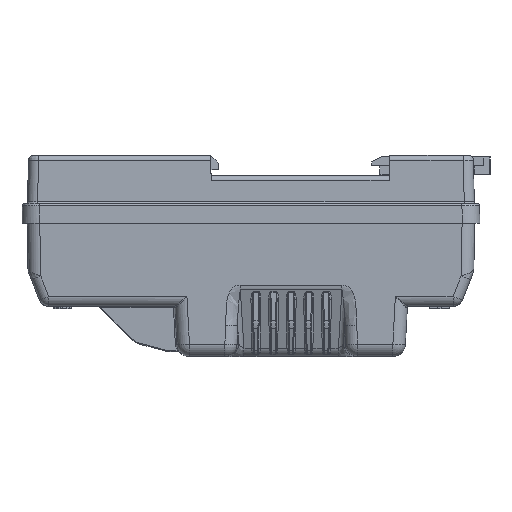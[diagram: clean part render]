
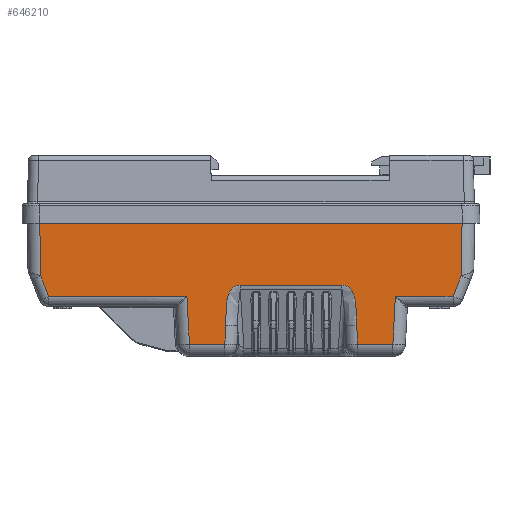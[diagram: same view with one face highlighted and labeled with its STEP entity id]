
A CAD part, left-side view. The second image highlights one B-rep face of the part: STEP entity #646210.
In plain terms, the highlighted planar face has unit normal (-1, 0, -0.018).
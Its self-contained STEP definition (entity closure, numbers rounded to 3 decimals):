
#92290=CARTESIAN_POINT('',(-12.177,-14.214,
16.937));
#92300=VERTEX_POINT('',#92290);
#92330=CARTESIAN_POINT('',(-11.916,-13.952,
1.956));
#92340=DIRECTION('',(-0.017,-0.017,
1.));
#92350=VECTOR('',#92340,1.);
#92360=LINE('',#92330,#92350);
#92370=CARTESIAN_POINT('',(-12.36,-14.396,
27.4));
#92380=VERTEX_POINT('',#92370);
#92390=EDGE_CURVE('',#92300,#92380,#92360,.T.);
#142220=CARTESIAN_POINT('',(-12.177,69.408,
16.937));
#142230=VERTEX_POINT('',#142220);
#142260=CARTESIAN_POINT('',(-11.881,62.722,
-0.035));
#142270=DIRECTION('',(-0.016,0.366,
0.93));
#142280=VECTOR('',#142270,1.);
#142290=LINE('',#142260,#142280);
#142300=CARTESIAN_POINT('',(-12.106,67.804,
12.865));
#142310=VERTEX_POINT('',#142300);
#142320=EDGE_CURVE('',#142310,#142230,#142290,.T.);
#489590=CARTESIAN_POINT('',(-12.36,69.59,
27.4));
#489600=VERTEX_POINT('',#489590);
#489630=CARTESIAN_POINT('',(-11.881,69.111,
-0.044));
#489640=DIRECTION('',(0.017,-0.017,
-1.));
#489650=VECTOR('',#489640,1.);
#489660=LINE('',#489630,#489650);
#489670=EDGE_CURVE('',#489600,#142230,#489660,.T.);
#592020=CARTESIAN_POINT('',(-12.106,-12.61,
12.865));
#592030=VERTEX_POINT('',#592020);
#592060=CARTESIAN_POINT('',(-11.881,-7.528,
-0.035));
#592070=DIRECTION('',(0.016,0.366,
-0.93));
#592080=VECTOR('',#592070,1.);
#592090=LINE('',#592060,#592080);
#592100=EDGE_CURVE('',#92300,#592030,#592090,.T.);
#594220=CARTESIAN_POINT('',(-12.106,-1.129,
12.865));
#594230=VERTEX_POINT('',#594220);
#594520=CARTESIAN_POINT('',(-12.106,0.,
12.865));
#594530=DIRECTION('',(0.,-1.,0.));
#594540=VECTOR('',#594530,1.);
#594550=LINE('',#594520,#594540);
#594560=EDGE_CURVE('',#594230,#592030,#594550,.T.);
#645170=CARTESIAN_POINT('',(-12.367,0.,
27.8));
#645180=DIRECTION('',(1.,0.,
0.017));
#645190=DIRECTION('',(0.,-1.,0.));
#645200=AXIS2_PLACEMENT_3D('',#645170,#645180,#645190);
#645210=PLANE('',#645200);
#645220=CARTESIAN_POINT('',(-11.94,0.,
3.356));
#645230=DIRECTION('',(0.,1.,0.));
#645240=VECTOR('',#645230,1.);
#645250=LINE('',#645220,#645240);
#645260=CARTESIAN_POINT('',(-11.94,32.776,
3.356));
#645270=VERTEX_POINT('',#645260);
#645280=CARTESIAN_POINT('',(-11.94,39.824,
3.356));
#645290=VERTEX_POINT('',#645280);
#645300=EDGE_CURVE('',#645270,#645290,#645250,.T.);
#645310=ORIENTED_EDGE('',*,*,#645300,.F.);
#645320=CARTESIAN_POINT('',(-11.846,39.541,
-2.044));
#645330=DIRECTION('',(0.017,-0.052,
-0.998));
#645340=VECTOR('',#645330,1.);
#645350=LINE('',#645320,#645340);
#645360=CARTESIAN_POINT('',(-12.106,40.323,
12.865));
#645370=VERTEX_POINT('',#645360);
#645380=EDGE_CURVE('',#645370,#645290,#645350,.T.);
#645390=ORIENTED_EDGE('',*,*,#645380,.T.);
#645400=CARTESIAN_POINT('',(-12.106,0.,
12.865));
#645410=DIRECTION('',(0.,1.,0.));
#645420=VECTOR('',#645410,1.);
#645430=LINE('',#645400,#645420);
#645440=EDGE_CURVE('',#645370,#142310,#645430,.T.);
#645450=ORIENTED_EDGE('',*,*,#645440,.F.);
#645460=ORIENTED_EDGE('',*,*,#142320,.F.);
#645470=ORIENTED_EDGE('',*,*,#489670,.T.);
#645480=CARTESIAN_POINT('',(-12.36,0.,27.4));
#645490=DIRECTION('',(0.,1.,0.));
#645500=VECTOR('',#645490,1.);
#645510=LINE('',#645480,#645500);
#645520=EDGE_CURVE('',#92380,#489600,#645510,.T.);
#645530=ORIENTED_EDGE('',*,*,#645520,.T.);
#645540=ORIENTED_EDGE('',*,*,#92390,.T.);
#645550=ORIENTED_EDGE('',*,*,#592100,.F.);
#645560=ORIENTED_EDGE('',*,*,#594560,.T.);
#645570=CARTESIAN_POINT('',(-11.881,-0.452,
-0.044));
#645580=DIRECTION('',(-0.017,-0.052,
0.998));
#645590=VECTOR('',#645580,1.);
#645600=LINE('',#645570,#645590);
#645610=CARTESIAN_POINT('',(-11.94,-0.63,
3.356));
#645620=VERTEX_POINT('',#645610);
#645630=EDGE_CURVE('',#645620,#594230,#645600,.T.);
#645640=ORIENTED_EDGE('',*,*,#645630,.T.);
#645650=CARTESIAN_POINT('',(-11.94,5.639,
3.356));
#645660=DIRECTION('',(0.,1.,0.));
#645670=VECTOR('',#645660,1.);
#645680=LINE('',#645650,#645670);
#645690=CARTESIAN_POINT('',(-11.94,6.418,
3.356));
#645700=VERTEX_POINT('',#645690);
#645710=EDGE_CURVE('',#645620,#645700,#645680,.T.);
#645720=ORIENTED_EDGE('',*,*,#645710,.F.);
#645730=CARTESIAN_POINT('',(-11.881,6.311,
-0.044));
#645740=DIRECTION('',(0.017,-0.031,
-0.999));
#645750=VECTOR('',#645740,1.);
#645760=LINE('',#645730,#645750);
#645770=CARTESIAN_POINT('',(-12.006,6.536,
7.106));
#645780=VERTEX_POINT('',#645770);
#645790=EDGE_CURVE('',#645780,#645700,#645760,.T.);
#645800=ORIENTED_EDGE('',*,*,#645790,.T.);
#645810=CARTESIAN_POINT('',(-12.146,9.49,
15.114));
#645820=CARTESIAN_POINT('',(-12.146,7.916,
15.114));
#645830=CARTESIAN_POINT('',(-12.129,7.03,
14.141));
#645840=CARTESIAN_POINT('',(-12.1,6.641,
12.525));
#645850=CARTESIAN_POINT('',(-12.067,6.557,
10.594));
#645860=CARTESIAN_POINT('',(-12.033,6.586,
8.678));
#645870=CARTESIAN_POINT('',(-12.006,6.536,
7.106));
#645880=B_SPLINE_CURVE_WITH_KNOTS('',6,(#645810,#645820,#645830,#645840,
#645850,#645860,#645870),.UNSPECIFIED.,.F.,.F.,(7,7),(0.,1.),
.UNSPECIFIED.);
#645890=CARTESIAN_POINT('',(-12.146,9.49,
15.114));
#645900=VERTEX_POINT('',#645890);
#645910=EDGE_CURVE('',#645900,#645780,#645880,.T.);
#645920=ORIENTED_EDGE('',*,*,#645910,.T.);
#645930=CARTESIAN_POINT('',(-12.146,0.,
15.114));
#645940=DIRECTION('',(0.,-1.,0.));
#645950=VECTOR('',#645940,1.);
#645960=LINE('',#645930,#645950);
#645970=CARTESIAN_POINT('',(-12.146,29.704,
15.114));
#645980=VERTEX_POINT('',#645970);
#645990=EDGE_CURVE('',#645980,#645900,#645960,.T.);
#646000=ORIENTED_EDGE('',*,*,#645990,.T.);
#646010=CARTESIAN_POINT('',(-12.006,32.658,
7.106));
#646020=CARTESIAN_POINT('',(-12.033,32.608,
8.678));
#646030=CARTESIAN_POINT('',(-12.067,32.637,
10.594));
#646040=CARTESIAN_POINT('',(-12.1,32.553,
12.525));
#646050=CARTESIAN_POINT('',(-12.129,32.164,
14.141));
#646060=CARTESIAN_POINT('',(-12.146,31.278,
15.114));
#646070=CARTESIAN_POINT('',(-12.146,29.704,
15.114));
#646080=B_SPLINE_CURVE_WITH_KNOTS('',6,(#646010,#646020,#646030,#646040,
#646050,#646060,#646070),.UNSPECIFIED.,.F.,.F.,(7,7),(0.,1.),
.UNSPECIFIED.);
#646090=CARTESIAN_POINT('',(-12.006,32.658,
7.106));
#646100=VERTEX_POINT('',#646090);
#646110=EDGE_CURVE('',#646100,#645980,#646080,.T.);
#646120=ORIENTED_EDGE('',*,*,#646110,.T.);
#646130=CARTESIAN_POINT('',(-11.881,32.883,
-0.044));
#646140=DIRECTION('',(0.017,0.031,
-0.999));
#646150=VECTOR('',#646140,1.);
#646160=LINE('',#646130,#646150);
#646170=EDGE_CURVE('',#646100,#645270,#646160,.T.);
#646180=ORIENTED_EDGE('',*,*,#646170,.F.);
#646190=EDGE_LOOP('',(#646180,#646120,#646000,#645920,#645800,#645720,
#645640,#645560,#645550,#645540,#645530,#645470,#645460,#645450,#645390,
#645310));
#646200=FACE_OUTER_BOUND('',#646190,.T.);
#646210=ADVANCED_FACE('',(#646200),#645210,.F.);
